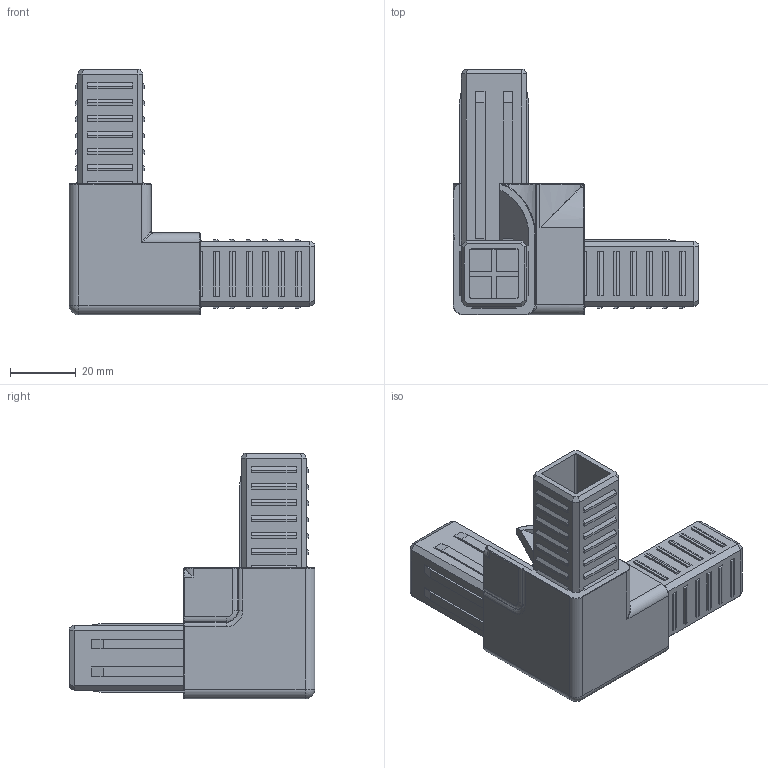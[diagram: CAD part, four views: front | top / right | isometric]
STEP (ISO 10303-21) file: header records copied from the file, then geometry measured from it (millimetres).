
FILE_DESCRIPTION (( 'STEP AP214' ), '1' );
FILE_NAME ('013.025.121.STEP', '2021-02-18T11:08:57', ( 'Localadmin' ), ( 'Microsoft' ), 'SwSTEP 2.0', 'SolidWorks 2018', '' );
FILE_SCHEMA (( 'AUTOMOTIVE_DESIGN' ));
Length unit declared in the file: millimetre
Products named in the file (1): 013.025.121
Bounding box: 75 x 75 x 75 mm (x, y, z)
Volume: 50792 mm3; surface area: 35602.9 mm2
Topology: 1 solids, 1 shells, 509 faces, 1294 edges, 816 vertices
Faces by surface type: plane 375, cylinder 64, torus 36, bspline 33, sphere 1
Entity records: 16793 total; most frequent: CARTESIAN_POINT 4717, ORIENTED_EDGE 2568, DIRECTION 2332, EDGE_CURVE 1284, VECTOR 1034, LINE 1034, VERTEX_POINT 816, AXIS2_PLACEMENT_3D 649
